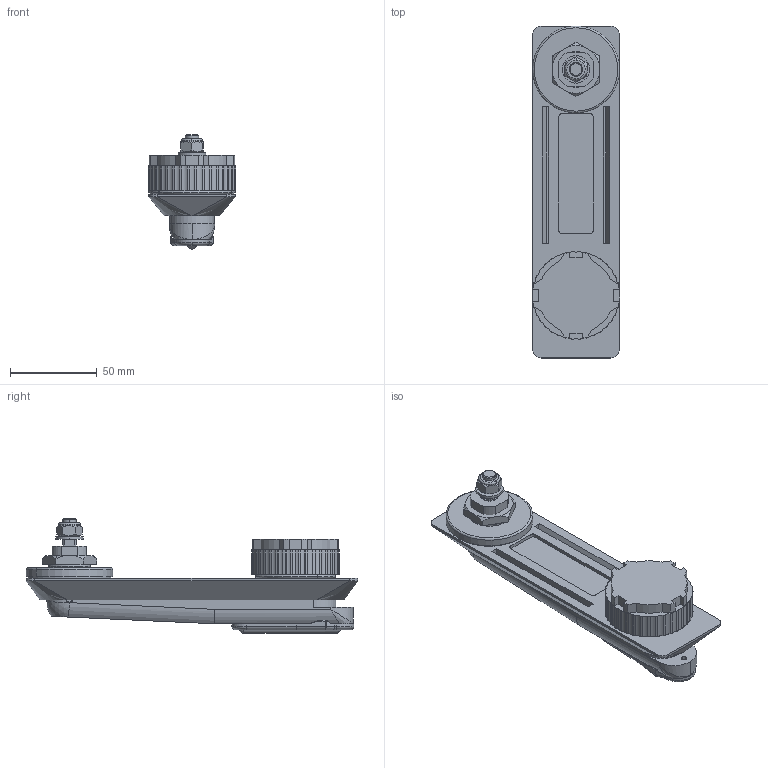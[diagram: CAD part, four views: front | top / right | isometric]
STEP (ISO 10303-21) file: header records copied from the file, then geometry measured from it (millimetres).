
FILE_DESCRIPTION (( 'STEP AP214' ), '1' );
FILE_NAME ('RS140.STEP', '2010-02-26T15:24:46', ( 'Techniczny' ), ( 'RST Roztocze' ), 'SwSTEP 2.0', 'SolidWorks 2010', '' );
FILE_SCHEMA (( 'AUTOMOTIVE_DESIGN' ));
Length unit declared in the file: millimetre
Products named in the file (17): 1C_NZN_01_00_00; 1B RS 130.01.02.01; Adapter; 1B.RS140.01.01.01_Otw. pod ucho; 1B.RS130.02.01.00; RS140; 1B.RS100.01.03.00; 1B.RS100.01.04.00; 1B.RS 100.01.06.00; O-RING 12ax2; O-RING 22x2; M22x1,5; Podk³adka M8x16_Default; Podk³adka falista M22; Zapinka RESS 6; Nakrêtka M8x5_Default; O-RING 45 x 2
Assembly tree (17 placements, depth 2):
  RS140
    Podk³adka falista M22  x2
    1B.RS 100.01.06.00
    Zapinka RESS 6
    Nakrêtka M8x5_Default
    Adapter
    1B.RS100.01.03.00
    1B.RS130.02.01.00
    O-RING 12ax2
    O-RING 22x2
    1B RS 130.01.02.01
    1B.RS100.01.04.00
    1B.RS140.01.01.01_Otw. pod ucho
    M22x1,5
    1C_NZN_01_00_00
    O-RING 45 x 2
    Podk³adka M8x16_Default
Bounding box: 50.41 x 191 x 65.8 mm (x, y, z)
Volume: 149165.5 mm3; surface area: 77635.6 mm2
Topology: 17 solids, 17 shells, 566 faces, 1441 edges, 909 vertices
Faces by surface type: cylinder 251, plane 188, torus 44, cone 37, bspline 35, sphere 11
Entity records: 22260 total; most frequent: CARTESIAN_POINT 7896, DIRECTION 2994, ORIENTED_EDGE 2802, EDGE_CURVE 1401, AXIS2_PLACEMENT_3D 1187, VERTEX_POINT 891, CIRCLE 638, LINE 620
